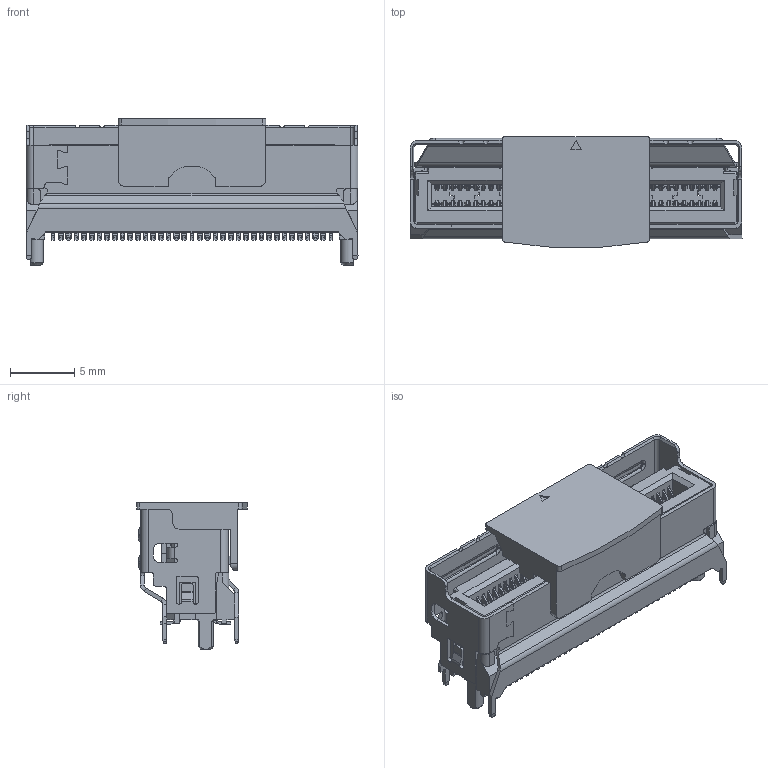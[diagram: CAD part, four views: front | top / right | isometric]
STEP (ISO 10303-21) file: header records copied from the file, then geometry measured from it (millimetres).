
FILE_DESCRIPTION((''),'2;1');
FILE_NAME('MCIO_VT_8X_20240527','2024-05-27T18:50:41',('veera_paritala'),(''),'CREO PARAMETRIC BY PTC INC, 2021164','CREO PARAMETRIC BY PTC INC, 2021164','');
FILE_SCHEMA(('CONFIG_CONTROL_DESIGN','GEOMETRIC_VALIDATION_PROPERTIES_MIM'));
Products named in the file (1): MCIO_VT_8X_20240527
Bounding box: 25.8 x 8.61 x 11.4 mm (x, y, z)
Volume: 768.7 mm3; surface area: 3452.3 mm2
Topology: 1 solids, 1 shells, 7340 faces, 20292 edges, 12956 vertices
Faces by surface type: plane 4660, cylinder 2016, bspline 624, cone 28, torus 12
Entity records: 315003 total; most frequent: CARTESIAN_POINT 82490, ORIENTED_EDGE 40584, DIRECTION 35637, EDGE_CURVE 20292, VECTOR 15397, LINE 15397, VERTEX_POINT 12956, AXIS2_PLACEMENT_3D 10120
